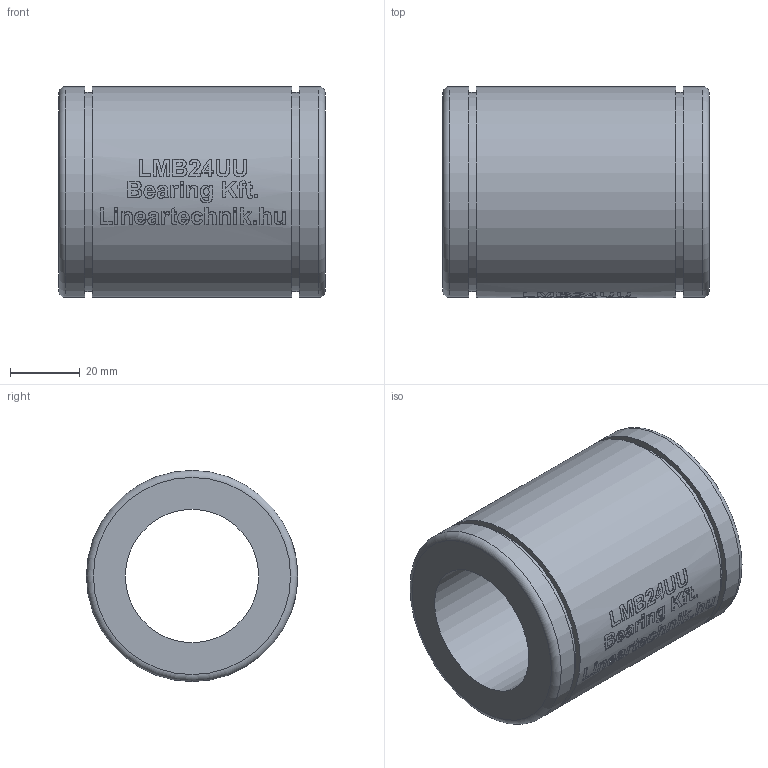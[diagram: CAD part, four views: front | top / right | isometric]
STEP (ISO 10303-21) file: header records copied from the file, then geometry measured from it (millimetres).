
FILE_DESCRIPTION(/* description */ (''),/* implementation_level */ '2;1');
FILE_NAME(/* name */ 'LMB24UU',/* time_stamp */ '2019-05-16T15:31:33+02:00',/* author */ ('VĂ©gh MĂˇtĂ©'),/* organization */ ('Bearing Kft'),/* preprocessor_version */ 'ST-DEVELOPER v16.7',/* originating_system */ 'DEX',/* authorisation */ $);
FILE_SCHEMA (('AUTOMOTIVE_DESIGN {1 0 10303 214 3 1 1}'));
Length unit declared in the file: millimetre
Products named in the file (1): LMB24UU
Bounding box: 76.2 x 60.33 x 60.33 mm (x, y, z)
Volume: 129189.8 mm3; surface area: 27957.9 mm2
Topology: 1 solids, 1 shells, 322 faces, 805 edges, 537 vertices
Faces by surface type: plane 169, bspline 97, cylinder 54, torus 2
Full cylindrical faces by diameter (mm): 38.1 x1, 56.87 x2, 60.325 x3
Entity records: 21564 total; most frequent: CARTESIAN_POINT 14378, ORIENTED_EDGE 1588, DIRECTION 1206, EDGE_CURVE 794, VERTEX_POINT 535, LINE 436, VECTOR 436, EDGE_LOOP 385
